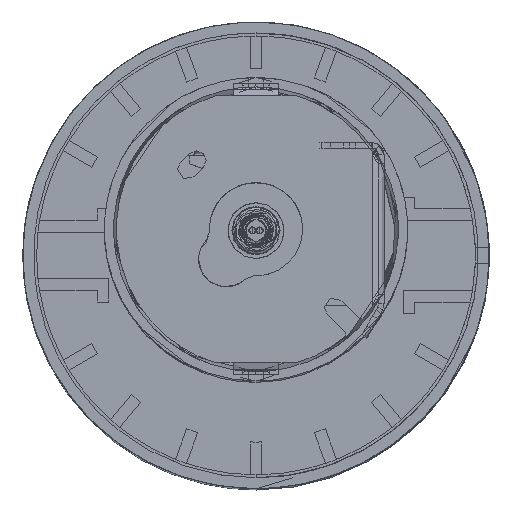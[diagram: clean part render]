
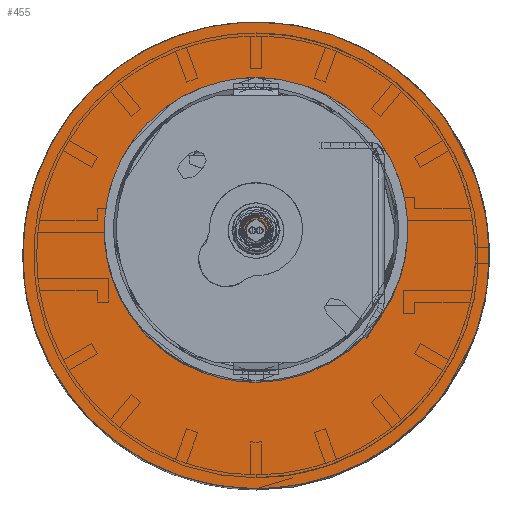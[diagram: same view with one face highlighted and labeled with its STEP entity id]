
A CAD part, top view. The second image highlights one B-rep face of the part: STEP entity #455.
In plain terms, the highlighted planar face has unit normal (0, 0, 1) as drawn and (0, 1, 0) by its records, which use the part's own axes.
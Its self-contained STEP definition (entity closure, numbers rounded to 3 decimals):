
#129=FACE_BOUND('',#1949,.T.);
#455=ADVANCED_FACE('',(#1197,#129),#11825,.T.);
#1197=FACE_OUTER_BOUND('',#1948,.T.);
#1948=EDGE_LOOP('',(#3988,#3989));
#1949=EDGE_LOOP('',(#3990,#3991));
#3988=ORIENTED_EDGE('',*,*,#7199,.F.);
#3989=ORIENTED_EDGE('',*,*,#7196,.F.);
#3990=ORIENTED_EDGE('',*,*,#7201,.T.);
#3991=ORIENTED_EDGE('',*,*,#7192,.T.);
#7192=EDGE_CURVE('',#10899,#10898,#8691,.T.);
#7196=EDGE_CURVE('',#10902,#10903,#8693,.T.);
#7199=EDGE_CURVE('',#10903,#10902,#8695,.T.);
#7201=EDGE_CURVE('',#10898,#10899,#8697,.T.);
#8691=(
BOUNDED_CURVE()
B_SPLINE_CURVE(2,(#20021,#20022,#20023,#20024,#20025),.UNSPECIFIED.,.F.,
 .F.)
B_SPLINE_CURVE_WITH_KNOTS((3,2,3),(-15.865,-7.933,
0.),.UNSPECIFIED.)
CURVE()
GEOMETRIC_REPRESENTATION_ITEM()
RATIONAL_B_SPLINE_CURVE((1.,0.707,1.,0.707,1.))
REPRESENTATION_ITEM('')
);
#8693=(
BOUNDED_CURVE()
B_SPLINE_CURVE(2,(#20035,#20036,#20037,#20038,#20039),.UNSPECIFIED.,.F.,
 .F.)
B_SPLINE_CURVE_WITH_KNOTS((3,2,3),(0.,78.54,157.08),
 .UNSPECIFIED.)
CURVE()
GEOMETRIC_REPRESENTATION_ITEM()
RATIONAL_B_SPLINE_CURVE((1.,0.707,1.,0.707,1.))
REPRESENTATION_ITEM('')
);
#8695=(
BOUNDED_CURVE()
B_SPLINE_CURVE(2,(#20047,#20048,#20049,#20050,#20051),.UNSPECIFIED.,.F.,
 .F.)
B_SPLINE_CURVE_WITH_KNOTS((3,2,3),(0.,78.54,157.08),
 .UNSPECIFIED.)
CURVE()
GEOMETRIC_REPRESENTATION_ITEM()
RATIONAL_B_SPLINE_CURVE((1.,0.707,1.,0.707,1.))
REPRESENTATION_ITEM('')
);
#8697=(
BOUNDED_CURVE()
B_SPLINE_CURVE(2,(#20057,#20058,#20059,#20060,#20061),.UNSPECIFIED.,.F.,
 .F.)
B_SPLINE_CURVE_WITH_KNOTS((3,2,3),(-15.865,-7.933,
0.),.UNSPECIFIED.)
CURVE()
GEOMETRIC_REPRESENTATION_ITEM()
RATIONAL_B_SPLINE_CURVE((1.,0.707,1.,0.707,1.))
REPRESENTATION_ITEM('')
);
#10898=VERTEX_POINT('',#20008);
#10899=VERTEX_POINT('',#20009);
#10902=VERTEX_POINT('',#20012);
#10903=VERTEX_POINT('',#20013);
#11825=PLANE('',#12748);
#12748=AXIS2_PLACEMENT_3D('',#19987,#13081,$);
#13081=DIRECTION('',(0.,1.,0.));
#19987=CARTESIAN_POINT('',(-60.,0.,-60.));
#20008=CARTESIAN_POINT('',(0.,0.,-5.05));
#20009=CARTESIAN_POINT('',(0.,0.,5.05));
#20012=CARTESIAN_POINT('',(0.,0.,-50.));
#20013=CARTESIAN_POINT('',(0.,0.,50.));
#20021=CARTESIAN_POINT('',(0.,0.,5.05));
#20022=CARTESIAN_POINT('',(-5.05,0.,5.05));
#20023=CARTESIAN_POINT('',(-5.05,0.,0.));
#20024=CARTESIAN_POINT('',(-5.05,0.,-5.05));
#20025=CARTESIAN_POINT('',(0.,0.,-5.05));
#20035=CARTESIAN_POINT('',(0.,0.,-50.));
#20036=CARTESIAN_POINT('',(50.,0.,-50.));
#20037=CARTESIAN_POINT('',(50.,0.,0.));
#20038=CARTESIAN_POINT('',(50.,0.,50.));
#20039=CARTESIAN_POINT('',(0.,0.,50.));
#20047=CARTESIAN_POINT('',(0.,0.,50.));
#20048=CARTESIAN_POINT('',(-50.,0.,50.));
#20049=CARTESIAN_POINT('',(-50.,0.,0.));
#20050=CARTESIAN_POINT('',(-50.,0.,-50.));
#20051=CARTESIAN_POINT('',(0.,0.,-50.));
#20057=CARTESIAN_POINT('',(0.,0.,-5.05));
#20058=CARTESIAN_POINT('',(5.05,0.,-5.05));
#20059=CARTESIAN_POINT('',(5.05,0.,0.));
#20060=CARTESIAN_POINT('',(5.05,0.,5.05));
#20061=CARTESIAN_POINT('',(0.,0.,5.05));
